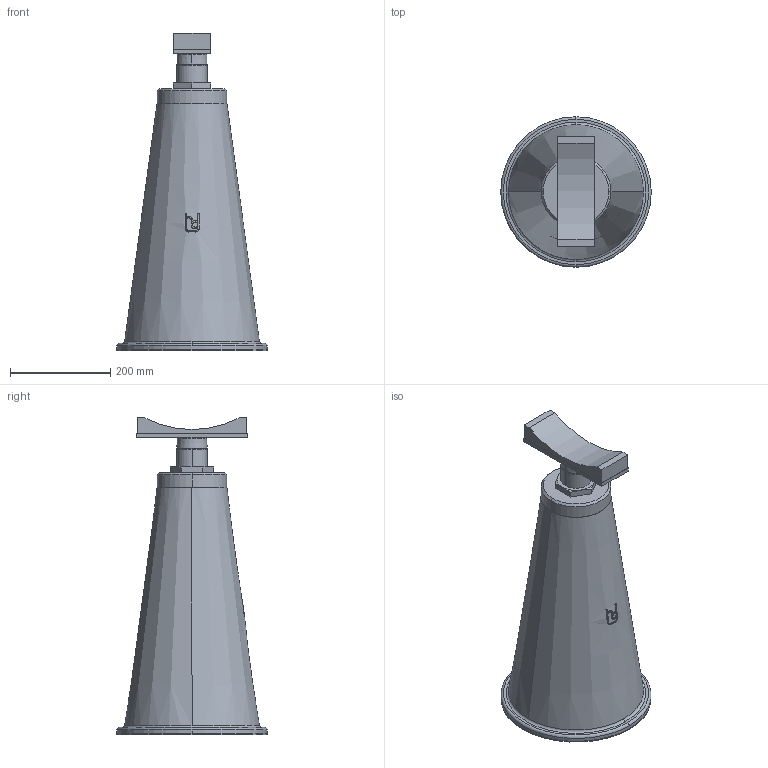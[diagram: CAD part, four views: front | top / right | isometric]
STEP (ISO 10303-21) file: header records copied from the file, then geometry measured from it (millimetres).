
FILE_DESCRIPTION(('STEP AP214'),'1');
FILE_NAME('RSRFC_DN400.stp','2018-06-27T10:02:41',(' '),(' '),'Spatial InterOp 3D',' ',' ');
FILE_SCHEMA(('automotive_design'));
Length unit declared in the file: millimetre
Products named in the file (7): 1; 2; 3; 4; 5; 6; 7
Bounding box: 300 x 300 x 632.11 mm (x, y, z)
Volume: 18339889.5 mm3; surface area: 794396.1 mm2
Topology: 7 solids, 7 shells, 116 faces, 286 edges, 188 vertices
Faces by surface type: plane 51, cylinder 34, cone 23, torus 8
Entity records: 5098 total; most frequent: CARTESIAN_POINT 1259, DIRECTION 589, ORIENTED_EDGE 572, EDGE_CURVE 286, AXIS2_PLACEMENT_3D 228, VERTEX_POINT 188, LINE 133, VECTOR 133
